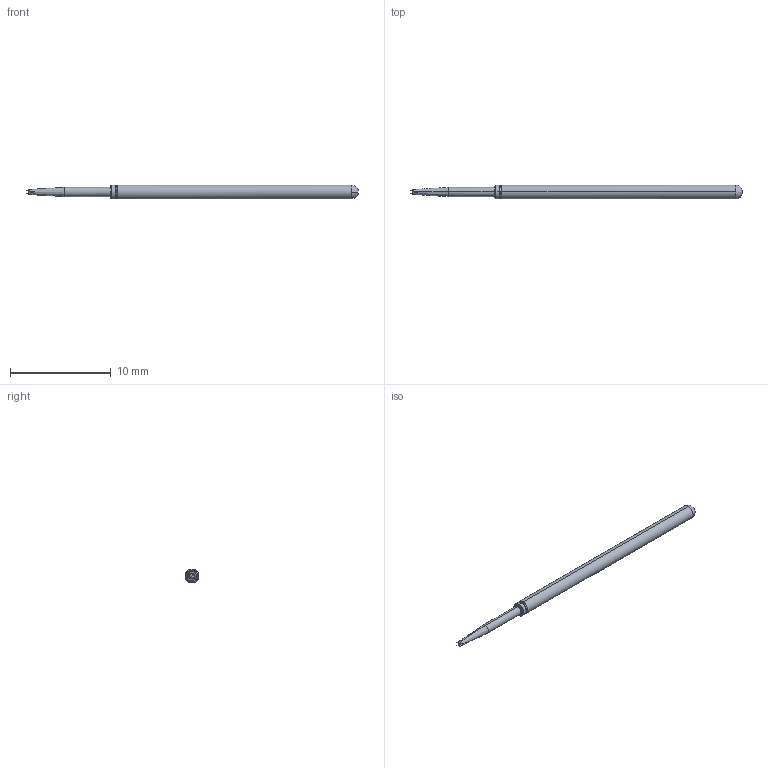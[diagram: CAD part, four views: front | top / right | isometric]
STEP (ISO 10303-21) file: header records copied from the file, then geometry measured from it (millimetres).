
FILE_DESCRIPTION (( 'STEP AP214' ), '1' );
FILE_NAME ('PA4Q-018.STEP', '2022-07-12T12:36:29', ( '' ), ( '' ), 'SwSTEP 2.0', 'SolidWorks 2022', '' );
FILE_SCHEMA (( 'AUTOMOTIVE_DESIGN' ));
Length unit declared in the file: inch
Products named in the file (1): PA4Q-018
Bounding box: 33.02 x 1.37 x 1.37 mm (x, y, z)
Volume: 40.4 mm3; surface area: 128.8 mm2
Topology: 1 solids, 1 shells, 28 faces, 56 edges, 31 vertices
Faces by surface type: bspline 28
Entity records: 955 total; most frequent: CARTESIAN_POINT 579, ORIENTED_EDGE 112, EDGE_CURVE 56, B_SPLINE_CURVE_WITH_KNOTS 34, VERTEX_POINT 31, EDGE_LOOP 29, FACE_OUTER_BOUND 28, ADVANCED_FACE 28
